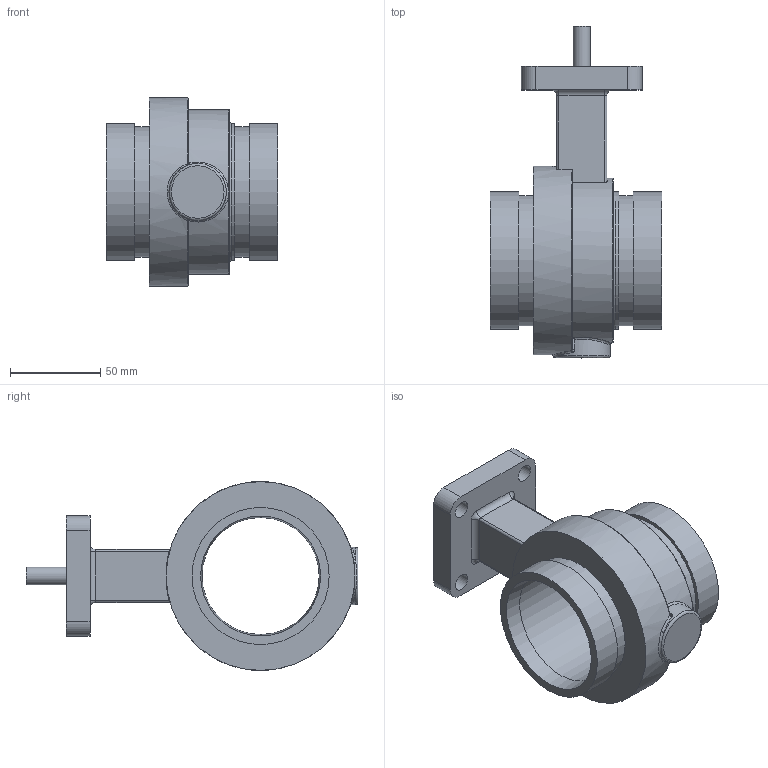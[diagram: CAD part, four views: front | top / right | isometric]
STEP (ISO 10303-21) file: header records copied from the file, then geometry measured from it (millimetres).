
FILE_DESCRIPTION(/* description */ ('Vic Series 461 Vic-300 MasterSeal SS Butterfly Valve','CAx-IF Rec.Pracs.---Representation and Presentation of Product Manufacturing Information (PMI)---4.0---2014-10-13'),/* implementation_level */ '2;1');
FILE_NAME(/* name */ 'C:\Users\kkamble\AppData\Roaming\Autodesk\ApplicationPlugins\Back Up\Victaulic_SS-OGS_Valve Butterfly Vic-300 Masterseal Bare_Series 461 (OGS)\Victaulic_SS-OGS_Valve Butterfly Vic-300 Masterseal Bare_Series 461 (OGS)_02.5 (76.1) (65).stp',/* time_stamp */ '2020-09-02T14:48:15+05:00',/* author */ ('mchristi'),/* organization */ ('Victaulic'),/* preprocessor_version */ 'ST-DEVELOPER v17.2',/* originating_system */ 'Autodesk Inventor 2019',/* authorisation */ '');
FILE_SCHEMA (('AP242_MANAGED_MODEL_BASED_3D_ENGINEERING_MIM_LF { 1 0 10303 442 1 1 4 }'));
Length unit declared in the file: inch
Products named in the file (1): 461-02.5 (76.1)
Bounding box: 95.25 x 184.4 x 104.9 mm (x, y, z)
Volume: 337464 mm3; surface area: 75443.4 mm2
Topology: 1 solids, 1 shells, 90 faces, 221 edges, 139 vertices
Faces by surface type: cylinder 35, plane 22, bspline 16, torus 13, sphere 2, cone 2
Full cylindrical faces by diameter (mm): 9.652 x5, 54.102 x1, 65.024 x1, 72.263 x2, 76.2 x3, 91.44 x1, 104.902 x1
Entity records: 3416 total; most frequent: CARTESIAN_POINT 1083, DIRECTION 480, ORIENTED_EDGE 438, EDGE_CURVE 219, AXIS2_PLACEMENT_3D 208, VERTEX_POINT 139, CIRCLE 120, EDGE_LOOP 108
